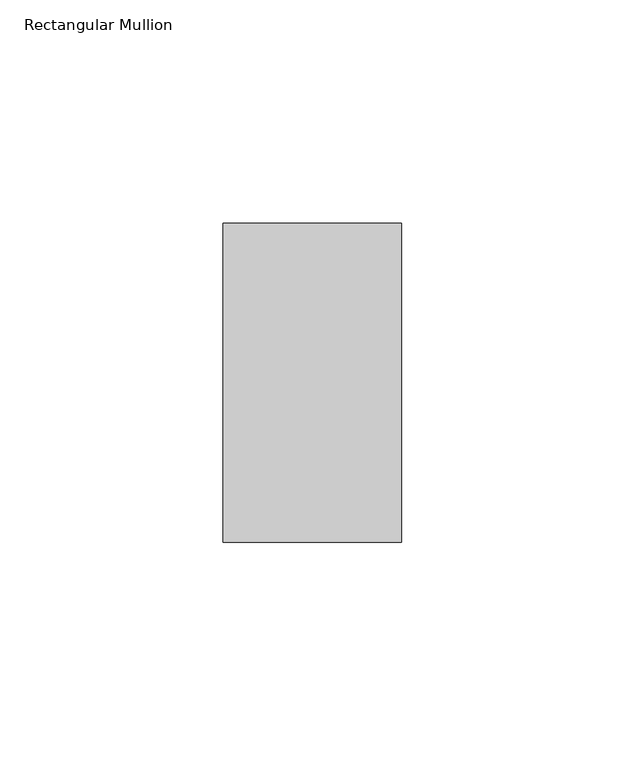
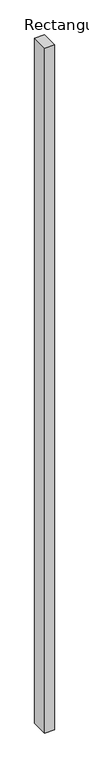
"""IFC4 building model written with IfcOpenShell, lengths in millimetres: member geometry, Rectangular Mullion : RSen_21_CWM_support profile - 40x70-double - left_gen_duco projects."""

import ifcopenshell
import ifcopenshell.guid

model = None  # the IFC model being written
_history = None  # IfcOwnerHistory: only IFC2X3 demands one
_inside = {}  # id of a spatial element -> (the spatial element, [elements in it])
_under = {}  # id of a project, library or spatial element -> (it, [spatial elements below it])
_declared = {}  # id of a project -> (the project, [libraries it declares])
_typed = {}  # id of a type object -> (the type object, [elements of that type])
_made_of = {}  # id of a material, layer set ... -> (it, [elements and type objects made of it])


def new_model(schema):
    """Start an empty IFC model of exactly this schema.

    Asked for "IFC4X3", IfcOpenShell would pick the latest addendum, in which some entities
    have other attributes; the version numbers below select the first issue.
    IFC2X3 requires an IfcOwnerHistory on every rooted entity: one is made here for all.
    """
    global model, _history
    if schema == "IFC4X3":
        model = ifcopenshell.file(schema_version=(4, 3, 0, 0))
    else:
        model = ifcopenshell.file(schema=schema)
    _inside.clear()
    _under.clear()
    _declared.clear()
    _typed.clear()
    _made_of.clear()
    _history = None
    if model.schema == "IFC2X3":
        org = make("IfcOrganization", Name="unknown")
        user = make(
            "IfcPersonAndOrganization",
            ThePerson=make("IfcPerson", FamilyName="unknown"),
            TheOrganization=org,
        )
        app = make(
            "IfcApplication",
            ApplicationDeveloper=org,
            Version="unknown",
            ApplicationFullName="unknown",
            ApplicationIdentifier="unknown",
        )
        _history = make(
            "IfcOwnerHistory",
            OwningUser=user,
            OwningApplication=app,
            ChangeAction="ADDED",
            CreationDate=0,
        )
    return model


def make(cls, **values):
    """One entity of the class cls with the attributes given. An attribute that is None is left unset."""
    return model.create_entity(
        cls, **{name: value for name, value in values.items() if value is not None}
    )


def rooted(cls, **values):
    """An entity with a GlobalId (a new one), such as an element, a storey or a relation."""
    return make(cls, GlobalId=ifcopenshell.guid.new(), OwnerHistory=_history, **values)


def si_unit(unit_type, name, prefix=None):
    """IfcSIUnit, for example si_unit("LENGTHUNIT", "METRE", prefix="MILLI")."""
    return make("IfcSIUnit", UnitType=unit_type, Prefix=prefix, Name=name)


def assignment(units):
    """IfcUnitAssignment: the units of a project."""
    return None if units is None else make("IfcUnitAssignment", Units=units)


def point(xyz):
    """IfcCartesianPoint."""
    return None if xyz is None else make("IfcCartesianPoint", Coordinates=xyz)


def direction(xyz):
    """IfcDirection."""
    return None if xyz is None else make("IfcDirection", DirectionRatios=xyz)


def frame(location, z_axis=None, x_axis=None):
    """IfcAxis2Placement3D, a coordinate frame: its origin and axes. An axis left out is left unset."""
    return make(
        "IfcAxis2Placement3D",
        Location=point(location),
        Axis=direction(z_axis),
        RefDirection=direction(x_axis),
    )


def origin():
    """The frame at (0, 0, 0) with its axes left unset."""
    return frame((0.0, 0.0, 0.0))


def place(relative_to, where):
    """IfcLocalPlacement: puts the frame where relative to a parent placement (None: the world)."""
    return make(
        "IfcLocalPlacement", PlacementRelTo=relative_to, RelativePlacement=where
    )


def context(
    kind, dimensions, precision=None, world=None, true_north=None, identifier=None
):
    """IfcGeometricRepresentationContext, for example the 3D "Model" context."""
    return make(
        "IfcGeometricRepresentationContext",
        ContextIdentifier=identifier,
        ContextType=kind,
        CoordinateSpaceDimension=dimensions,
        Precision=precision,
        WorldCoordinateSystem=world,
        TrueNorth=true_north,
    )


def project(units=None, contexts=None):
    """IfcProject with its units and contexts."""
    return rooted(
        "IfcProject",
        Name="project",
        RepresentationContexts=contexts,
        UnitsInContext=assignment(units),
    )


def spatial(cls, under=None, at=None, **own):
    """A site, building, storey or space (cls), placed at a placement, below another one or the project."""
    s = rooted(cls, ObjectPlacement=at, **own)
    if under is not None:
        _under.setdefault(under.id(), (under, []))[1].append(s)
    return s


def polyline(points):
    """IfcPolyline through the points."""
    return make("IfcPolyline", Points=[point(p) for p in points])


def outline(outer, holes=None, kind="AREA"):
    """IfcArbitraryClosedProfileDef: a profile drawn as a closed curve; with holes, ...WithVoids."""
    if holes is None:
        return make("IfcArbitraryClosedProfileDef", ProfileType=kind, OuterCurve=outer)
    return make(
        "IfcArbitraryProfileDefWithVoids",
        ProfileType=kind,
        OuterCurve=outer,
        InnerCurves=holes,
    )


def extrude(swept, where, along, depth):
    """IfcExtrudedAreaSolid: the profile swept, set in the frame where, extruded along a direction by depth."""
    return make(
        "IfcExtrudedAreaSolid",
        SweptArea=swept,
        Position=where,
        ExtrudedDirection=direction(along),
        Depth=depth,
    )


def shape(context_of_items, identifier, shape_type, items):
    """IfcShapeRepresentation: the items that make up one representation, for example the "Body"."""
    return make(
        "IfcShapeRepresentation",
        ContextOfItems=context_of_items,
        RepresentationIdentifier=identifier,
        RepresentationType=shape_type,
        Items=items,
    )


def source(mapping_origin, context_of_items, identifier, shape_type, items):
    """IfcRepresentationMap: a shape defined once, which mapped items show again and again."""
    return make(
        "IfcRepresentationMap",
        MappingOrigin=mapping_origin,
        MappedRepresentation=shape(context_of_items, identifier, shape_type, items),
    )


def transform(
    local_origin,
    x_axis=None,
    y_axis=None,
    z_axis=None,
    scale=None,
    scale2=None,
    scale3=None,
    uniform=True,
):
    """IfcCartesianTransformationOperator3D, or its non-uniform kind. x_axis, y_axis, z_axis: its Axis1, 2, 3."""
    if uniform:
        return make(
            "IfcCartesianTransformationOperator3D",
            Axis1=direction(x_axis),
            Axis2=direction(y_axis),
            LocalOrigin=point(local_origin),
            Scale=scale,
            Axis3=direction(z_axis),
        )
    return make(
        "IfcCartesianTransformationOperator3DnonUniform",
        Axis1=direction(x_axis),
        Axis2=direction(y_axis),
        LocalOrigin=point(local_origin),
        Scale=scale,
        Axis3=direction(z_axis),
        Scale2=scale2,
        Scale3=scale3,
    )


def mapped(mapping_source, mapping_target):
    """IfcMappedItem: shows the shape of a source again, moved by a transform."""
    return make(
        "IfcMappedItem", MappingSource=mapping_source, MappingTarget=mapping_target
    )


def made_of(thing, what):
    """Note that an element or type object is made of a material, layer set ...; save() writes the relation."""
    if what is not None:
        _made_of.setdefault(what.id(), (what, []))[1].append(thing)
    return thing


def element(
    cls,
    number,
    at=None,
    inside=None,
    cuts=None,
    type_object=None,
    material=None,
    context=None,
    identifier="Body",
    shape_type=None,
    held_by="IfcProductDefinitionShape",
    body=None,
    shapes=None,
    **own,
):
    """One element of the class cls, such as IfcWall. Its Tag is "e" and its number.

    at: its placement. inside: the storey or other place that contains it. cuts: it is an
    opening in that element (IfcRelVoidsElement). A single representation is given by context,
    identifier, shape_type and body (its items); several are given by shapes. held_by: the class
    of the entity that holds the representations. save() writes the other relations.
    """
    e = rooted(cls, Tag="e%d" % number, ObjectPlacement=at, **own)
    if body is not None:
        shapes = [shape(context, identifier, shape_type, body)]
    if shapes is not None:
        e.Representation = make(held_by, Representations=shapes)
    if inside is not None:
        _inside.setdefault(inside.id(), (inside, []))[1].append(e)
    if cuts is not None:
        rooted(
            "IfcRelVoidsElement", RelatingBuildingElement=cuts, RelatedOpeningElement=e
        )
    if type_object is not None:
        _typed.setdefault(type_object.id(), (type_object, []))[1].append(e)
    return made_of(e, material)


def aggregate(whole, parts):
    """IfcRelAggregates: a whole, such as a stair, and the parts it consists of."""
    return rooted("IfcRelAggregates", RelatingObject=whole, RelatedObjects=parts)


def save(model, path):
    """Write the relations noted so far, then the file.

    IfcRelAggregates (storeys below a building ...), IfcRelContainedInSpatialStructure (elements
    in a storey), IfcRelDefinesByType, IfcRelAssociatesMaterial and IfcRelDeclares: one each for
    every whole, place, type object, material and project.
    """
    for whole, parts in _under.values():
        aggregate(whole, parts)
    for where, things in _inside.values():
        rooted(
            "IfcRelContainedInSpatialStructure",
            RelatedElements=things,
            RelatingStructure=where,
        )
    for kind, things in _typed.values():
        rooted("IfcRelDefinesByType", RelatedObjects=things, RelatingType=kind)
    for what, things in _made_of.values():
        rooted("IfcRelAssociatesMaterial", RelatedObjects=things, RelatingMaterial=what)
    for by, libraries in _declared.values():
        rooted("IfcRelDeclares", RelatingContext=by, RelatedDefinitions=libraries)
    model.write(path)


def rectangular_mullion_a5d3c004(model_context):
    return source(origin(), model_context, "Body", "SweptSolid", [
        extrude(outline(polyline([(-50.0, 0.0), (-50.0, -71.5), (-90.0, -71.5), (-90.0, 0.0), (-50.0, 0.0)])), frame((0.0, 0.0, -3000.0), z_axis=(0.0, 0.0, 1.0), x_axis=(1.0, 0.0, 0.0)), (0.0, 0.0, 1.0), 3000.0),
    ])


if __name__ == "__main__":
    model = new_model("IFC4")
    model_context = context("Model", 3, world=origin())
    ifc_project = project(units=[si_unit("LENGTHUNIT", "METRE", prefix="MILLI")], contexts=[model_context])
    site = spatial("IfcSite", under=ifc_project)
    building = spatial("IfcBuilding", under=site)
    placement = place(None, origin())
    rectangular_mullion_shape = rectangular_mullion_a5d3c004(model_context)
    element("IfcMember", 1, ObjectType="Rectangular Mullion : RSen_21_CWM_support profile - 40x70-double - left_gen_duco projects", at=placement, inside=building, context=model_context, shape_type="MappedRepresentation", body=[
        mapped(rectangular_mullion_shape, transform((0.0, 0.0, 0.0), x_axis=(1.0, 0.0, 0.0), y_axis=(0.0, 1.0, 0.0), z_axis=(0.0, 0.0, 1.0))),
    ])
    save(model, "model.ifc")
